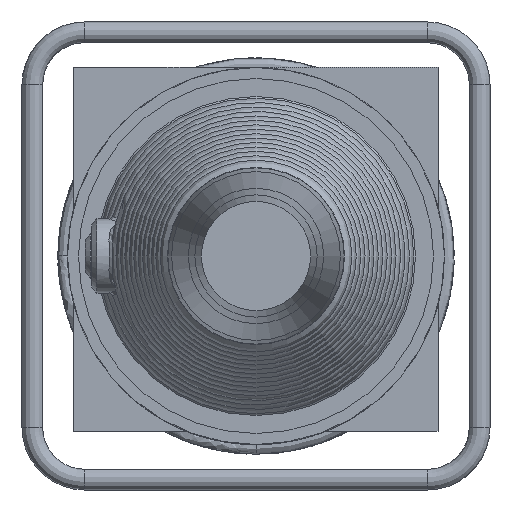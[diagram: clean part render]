
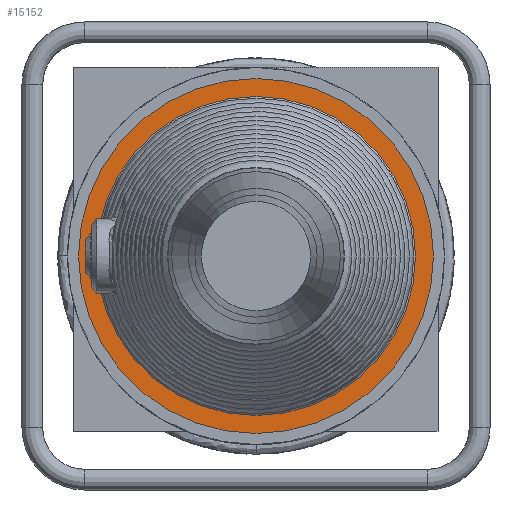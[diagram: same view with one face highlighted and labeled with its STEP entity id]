
A CAD part, left-side view. The second image highlights one B-rep face of the part: STEP entity #15152.
In plain terms, the highlighted planar face has unit normal (-1, 0, 0).
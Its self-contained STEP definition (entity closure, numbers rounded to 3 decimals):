
#1562=PLANE('',#15980);
#3590=FACE_BOUND('',#5457,.T.);
#4443=FACE_OUTER_BOUND('',#5456,.T.);
#5456=EDGE_LOOP('',(#13756));
#5457=EDGE_LOOP('',(#13757));
#5960=CIRCLE('',#15981,136.5);
#5961=CIRCLE('',#15982,122.697);
#7422=VERTEX_POINT('',#38575);
#7423=VERTEX_POINT('',#38577);
#9557=EDGE_CURVE('',#7422,#7422,#5960,.T.);
#9558=EDGE_CURVE('',#7423,#7423,#5961,.T.);
#13756=ORIENTED_EDGE('',*,*,#9557,.F.);
#13757=ORIENTED_EDGE('',*,*,#9558,.T.);
#15152=ADVANCED_FACE('',(#4443,#3590),#1562,.T.);
#15980=AXIS2_PLACEMENT_3D('',#38574,#18484,#18485);
#15981=AXIS2_PLACEMENT_3D('',#38576,#18486,#18487);
#15982=AXIS2_PLACEMENT_3D('',#38578,#18488,#18489);
#18484=DIRECTION('center_axis',(-1.,0.,0.));
#18485=DIRECTION('ref_axis',(0.,0.,1.));
#18486=DIRECTION('center_axis',(1.,0.,0.));
#18487=DIRECTION('ref_axis',(0.,-1.,0.));
#18488=DIRECTION('center_axis',(1.,0.,0.));
#18489=DIRECTION('ref_axis',(0.,-1.,0.));
#38574=CARTESIAN_POINT('Origin',(-192.651,-135.5,0.));
#38575=CARTESIAN_POINT('',(-192.651,-136.5,0.));
#38576=CARTESIAN_POINT('Origin',(-192.651,0.,
0.));
#38577=CARTESIAN_POINT('',(-192.651,-122.697,0.));
#38578=CARTESIAN_POINT('Origin',(-192.651,0.,
0.));
